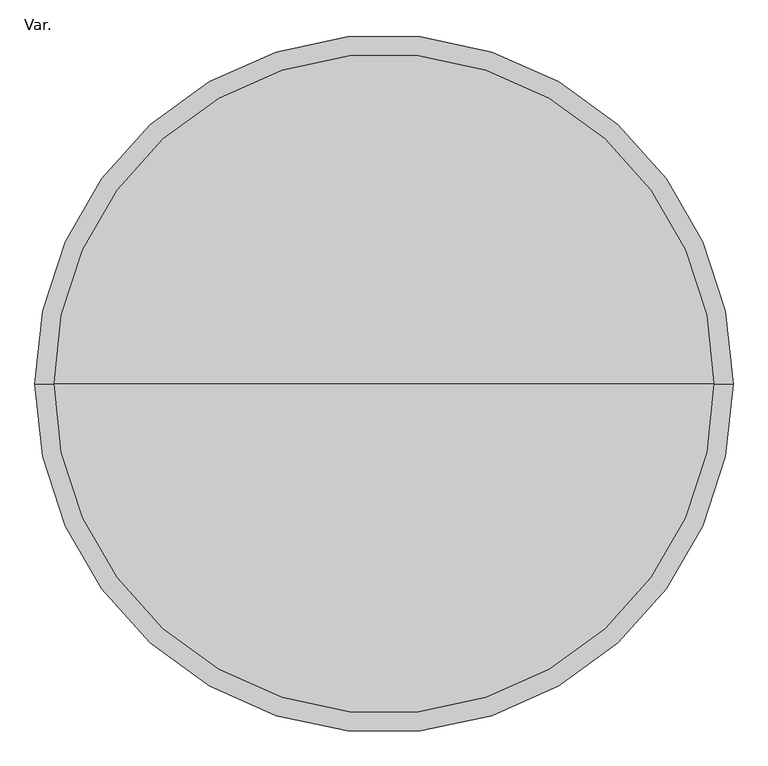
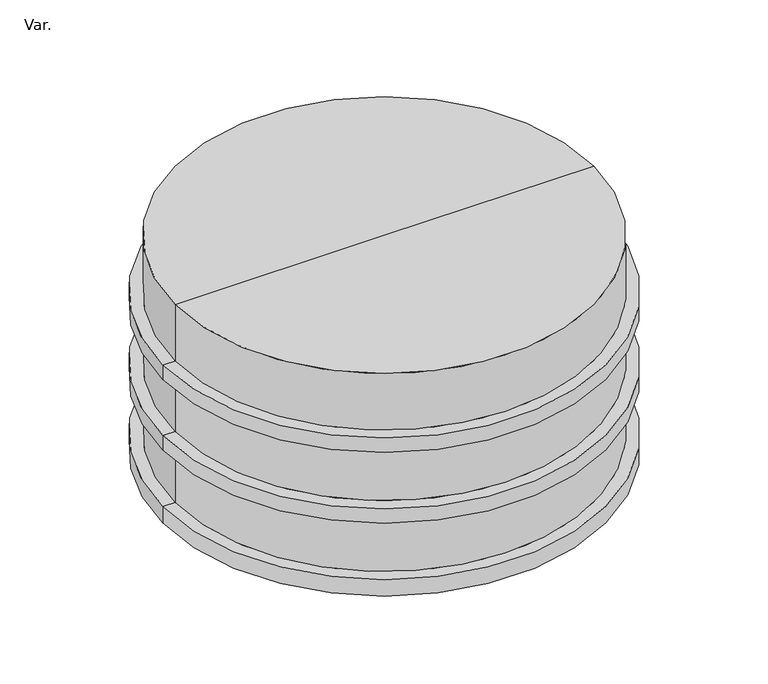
"""IFC4 building model written with IfcOpenShell, lengths in millimetres: pipe fitting geometry, PlastigamaWavin_Unionesdetubería_NovafortZNoUsarManholeElevador : Var.."""

from ifc_helpers import new_model, si_unit, frame, origin, place, context, project, spatial, circle_curve, source, transform, mapped, element, save
from ifc_brep_helpers import plane_surface, cylinder_surface, advanced_brep


def var_51ffa7ba(model_context):
    return source(origin(), model_context, "Body", "AdvancedBrep", [
        advanced_brep(
        [(480.0, 0.0, 520.01), (-480.0, 0.0, 520.01), (0.0, 0.0, 520.01), (480.0, 0.0, 383.34), (-480.0, 0.0, 383.34), (508.0, 0.0, 383.34), (-508.0, 0.0, 383.34), (508.0, 0.0, 348.34), (-508.0, 0.0, 348.34), (480.0, 0.0, 348.34), (-480.0, 0.0, 348.34), (480.0, 0.0, 211.67), (-480.0, 0.0, 211.67), (508.0, 0.0, 211.67), (-508.0, 0.0, 211.67), (508.0, 0.0, 176.67), (-508.0, 0.0, 176.67), (480.0, 0.0, 176.67), (-480.0, 0.0, 176.67), (480.0, 0.0, 40.0), (-480.0, 0.0, 40.0), (508.0, 0.0, 40.0), (-508.0, 0.0, 40.0), (508.0, 0.0, 0.0), (-508.0, 0.0, 0.0), (0.0, 0.0, 0.0)],
        [
            (0, 1, circle_curve(frame((0.0, 0.0, 520.01), z_axis=(0.0, 0.0, 1.0), x_axis=(-1.0, 0.0, 0.0)), 480.0)),
            (1, 2),
            (2, 0),
            (1, 0, circle_curve(frame((0.0, 0.0, 520.01), z_axis=(0.0, 0.0, 1.0), x_axis=(-1.0, 0.0, 0.0)), 480.0)),
            (3, 4, circle_curve(frame((0.0, 0.0, 383.34), z_axis=(0.0, 0.0, 1.0), x_axis=(-1.0, 0.0, 0.0)), 480.0)),
            (4, 1),
            (0, 3),
            (4, 3, circle_curve(frame((0.0, 0.0, 383.34), z_axis=(0.0, 0.0, 1.0), x_axis=(-1.0, 0.0, 0.0)), 480.0)),
            (5, 6, circle_curve(frame((0.0, 0.0, 383.34), z_axis=(0.0, 0.0, 1.0), x_axis=(-1.0, 0.0, 0.0)), 508.0)),
            (6, 4),
            (3, 5),
            (6, 5, circle_curve(frame((0.0, 0.0, 383.34), z_axis=(0.0, 0.0, 1.0), x_axis=(-1.0, 0.0, 0.0)), 508.0)),
            (7, 8, circle_curve(frame((0.0, 0.0, 348.34), z_axis=(0.0, 0.0, 1.0), x_axis=(-1.0, 0.0, 0.0)), 508.0)),
            (8, 6),
            (5, 7),
            (8, 7, circle_curve(frame((0.0, 0.0, 348.34), z_axis=(0.0, 0.0, 1.0), x_axis=(-1.0, 0.0, 0.0)), 508.0)),
            (9, 10, circle_curve(frame((0.0, 0.0, 348.34), z_axis=(0.0, 0.0, 1.0), x_axis=(-1.0, 0.0, 0.0)), 480.0)),
            (10, 8),
            (7, 9),
            (10, 9, circle_curve(frame((0.0, 0.0, 348.34), z_axis=(0.0, 0.0, 1.0), x_axis=(-1.0, 0.0, 0.0)), 480.0)),
            (11, 12, circle_curve(frame((0.0, 0.0, 211.67), z_axis=(0.0, 0.0, 1.0), x_axis=(-1.0, 0.0, 0.0)), 480.0)),
            (12, 10),
            (9, 11),
            (12, 11, circle_curve(frame((0.0, 0.0, 211.67), z_axis=(0.0, 0.0, 1.0), x_axis=(-1.0, 0.0, 0.0)), 480.0)),
            (13, 14, circle_curve(frame((0.0, 0.0, 211.67), z_axis=(0.0, 0.0, 1.0), x_axis=(-1.0, 0.0, 0.0)), 508.0)),
            (14, 12),
            (11, 13),
            (14, 13, circle_curve(frame((0.0, 0.0, 211.67), z_axis=(0.0, 0.0, 1.0), x_axis=(-1.0, 0.0, 0.0)), 508.0)),
            (15, 16, circle_curve(frame((0.0, 0.0, 176.67), z_axis=(0.0, 0.0, 1.0), x_axis=(-1.0, 0.0, 0.0)), 508.0)),
            (16, 14),
            (13, 15),
            (16, 15, circle_curve(frame((0.0, 0.0, 176.67), z_axis=(0.0, 0.0, 1.0), x_axis=(-1.0, 0.0, 0.0)), 508.0)),
            (17, 18, circle_curve(frame((0.0, 0.0, 176.67), z_axis=(0.0, 0.0, 1.0), x_axis=(-1.0, 0.0, 0.0)), 480.0)),
            (18, 16),
            (15, 17),
            (18, 17, circle_curve(frame((0.0, 0.0, 176.67), z_axis=(0.0, 0.0, 1.0), x_axis=(-1.0, 0.0, 0.0)), 480.0)),
            (19, 20, circle_curve(frame((0.0, 0.0, 40.0), z_axis=(0.0, 0.0, 1.0), x_axis=(-1.0, 0.0, 0.0)), 480.0)),
            (20, 18),
            (17, 19),
            (20, 19, circle_curve(frame((0.0, 0.0, 40.0), z_axis=(0.0, 0.0, 1.0), x_axis=(-1.0, 0.0, 0.0)), 480.0)),
            (21, 22, circle_curve(frame((0.0, 0.0, 40.0), z_axis=(0.0, 0.0, 1.0), x_axis=(-1.0, 0.0, 0.0)), 508.0)),
            (22, 20),
            (19, 21),
            (22, 21, circle_curve(frame((0.0, 0.0, 40.0), z_axis=(0.0, 0.0, 1.0), x_axis=(-1.0, 0.0, 0.0)), 508.0)),
            (23, 24, circle_curve(frame((0.0, 0.0, 0.0), z_axis=(0.0, 0.0, 1.0), x_axis=(-1.0, 0.0, 0.0)), 508.0)),
            (24, 22),
            (21, 23),
            (24, 23, circle_curve(frame((0.0, 0.0, 0.0), z_axis=(0.0, 0.0, 1.0), x_axis=(-1.0, 0.0, 0.0)), 508.0)),
            (25, 24),
            (23, 25),
        ],
        [
            plane_surface(frame((0.0, 0.0, 520.01), z_axis=(0.0, 0.0, 1.0), x_axis=(-1.0, 0.0, 0.0))),
            cylinder_surface(frame((0.0, 0.0, 520.01), z_axis=(0.0, 0.0, -1.0), x_axis=(-1.0, 0.0, 0.0)), 480.0),
            plane_surface(frame((0.0, 0.0, 383.34), z_axis=(0.0, 0.0, 1.0), x_axis=(-1.0, 0.0, 0.0))),
            cylinder_surface(frame((0.0, 0.0, 520.01), z_axis=(0.0, 0.0, -1.0), x_axis=(-1.0, 0.0, 0.0)), 508.0),
            plane_surface(frame((0.0, 0.0, 348.34), z_axis=(0.0, 0.0, -1.0), x_axis=(-1.0, 0.0, 0.0))),
            plane_surface(frame((0.0, 0.0, 211.67), z_axis=(0.0, 0.0, 1.0), x_axis=(-1.0, 0.0, 0.0))),
            plane_surface(frame((0.0, 0.0, 176.67), z_axis=(0.0, 0.0, -1.0), x_axis=(-1.0, 0.0, 0.0))),
            plane_surface(frame((0.0, 0.0, 40.0), z_axis=(0.0, 0.0, 1.0), x_axis=(-1.0, 0.0, 0.0))),
            plane_surface(frame((0.0, 0.0, 0.0), z_axis=(0.0, 0.0, -1.0), x_axis=(-1.0, 0.0, 0.0))),
        ],
        [
            (0, [[1, 2, 3]]),
            (0, [[4, -3, -2]]),
            (1, [[5, 6, -1, 7]]),
            (1, [[8, -7, -4, -6]]),
            (2, [[9, 10, -5, 11]]),
            (2, [[12, -11, -8, -10]]),
            (3, [[13, 14, -9, 15]]),
            (3, [[16, -15, -12, -14]]),
            (4, [[17, 18, -13, 19]]),
            (4, [[20, -19, -16, -18]]),
            (1, [[21, 22, -17, 23]]),
            (1, [[24, -23, -20, -22]]),
            (5, [[25, 26, -21, 27]]),
            (5, [[28, -27, -24, -26]]),
            (3, [[29, 30, -25, 31]]),
            (3, [[32, -31, -28, -30]]),
            (6, [[33, 34, -29, 35]]),
            (6, [[36, -35, -32, -34]]),
            (1, [[37, 38, -33, 39]]),
            (1, [[40, -39, -36, -38]]),
            (7, [[41, 42, -37, 43]]),
            (7, [[44, -43, -40, -42]]),
            (3, [[45, 46, -41, 47]]),
            (3, [[48, -47, -44, -46]]),
            (8, [[49, -45, 50]]),
            (8, [[-50, -48, -49]]),
        ],
    ),
    ])


if __name__ == "__main__":
    model = new_model("IFC4")
    model_context = context("Model", 3, world=origin())
    ifc_project = project(units=[si_unit("LENGTHUNIT", "METRE", prefix="MILLI")], contexts=[model_context])
    site = spatial("IfcSite", under=ifc_project)
    building = spatial("IfcBuilding", under=site)
    placement = place(None, origin())
    var_shape = var_51ffa7ba(model_context)
    element("IfcPipeFitting", 1, ObjectType="PlastigamaWavin_Unionesdetubería_NovafortZNoUsarManholeElevador : Var.", at=placement, inside=building, context=model_context, shape_type="MappedRepresentation", body=[
        mapped(var_shape, transform((0.0, 0.0, 0.0), x_axis=(1.0, 0.0, 0.0), y_axis=(0.0, 1.0, 0.0), z_axis=(0.0, 0.0, 1.0))),
    ])
    save(model, "model.ifc")
